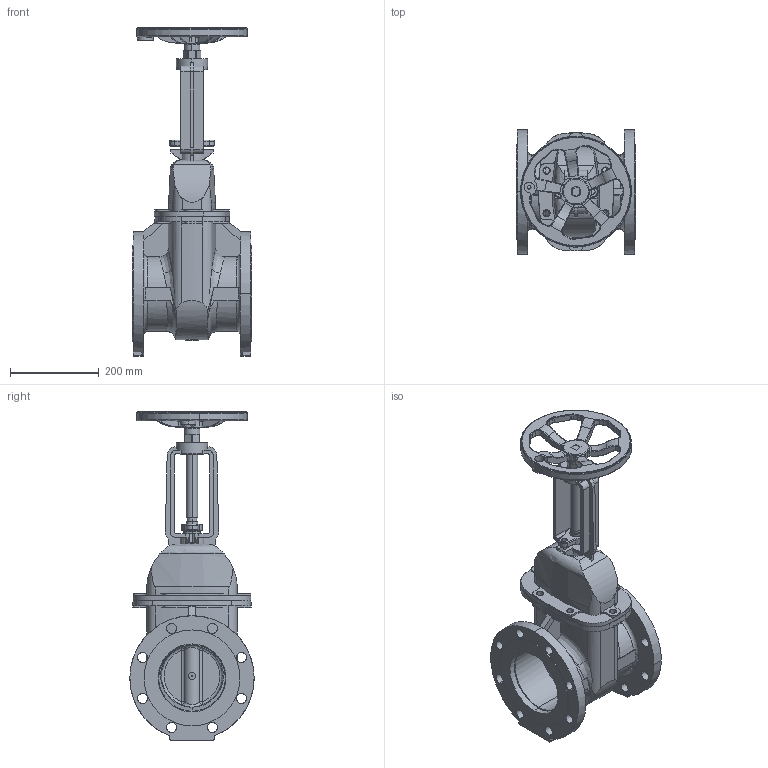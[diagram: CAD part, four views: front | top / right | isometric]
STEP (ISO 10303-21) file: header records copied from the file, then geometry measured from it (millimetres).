
FILE_DESCRIPTION(('Open CASCADE Model'),'2;1');
FILE_NAME('Open CASCADE Shape Model','2022-03-10T09:17:53',('Author'),( 'Open CASCADE'),'Open CASCADE STEP processor 7.3','Open CASCADE 7.3' ,'Unknown');
FILE_SCHEMA(('AUTOMOTIVE_DESIGN { 1 0 10303 214 1 1 1 1 }'));
Length unit declared in the file: millimetre
Products named in the file (8): Open CASCADE STEP translator 7.3 1; Open CASCADE STEP translator 7.3 1.1; Open CASCADE STEP translator 7.3 1.2; Open CASCADE STEP translator 7.3 1.3; Open CASCADE STEP translator 7.3 1.4; Open CASCADE STEP translator 7.3 1.5; Open CASCADE STEP translator 7.3 1.6; Open CASCADE STEP translator 7.3 1.7
Assembly tree (7 placements, depth 2):
  Open CASCADE STEP translator 7.3 1
    Open CASCADE STEP translator 7.3 1.1
    Open CASCADE STEP translator 7.3 1.2
    Open CASCADE STEP translator 7.3 1.3
    Open CASCADE STEP translator 7.3 1.4
    Open CASCADE STEP translator 7.3 1.5
    Open CASCADE STEP translator 7.3 1.6
    Open CASCADE STEP translator 7.3 1.7
Bounding box: 268 x 280 x 739 mm (x, y, z)
Volume: 6483201.7 mm3; surface area: 1229295.1 mm2
Topology: 7 solids, 7 shells, 1137 faces, 2986 edges, 1862 vertices
Faces by surface type: cylinder 489, plane 289, torus 164, bspline 112, cone 56, sphere 19, revolution 8
Entity records: 124781 total; most frequent: CARTESIAN_POINT 68673, DIRECTION 9865, ORIENTED_EDGE 5956, PCURVE 5956, DEFINITIONAL_REPRESENTATION 5956, LINE 4780, VECTOR 4780, EDGE_CURVE 2978
